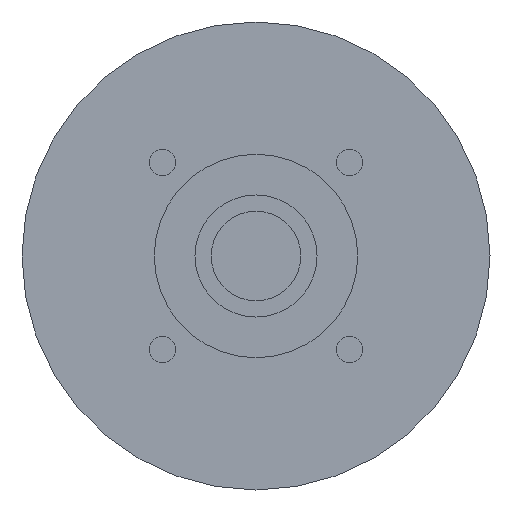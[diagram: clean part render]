
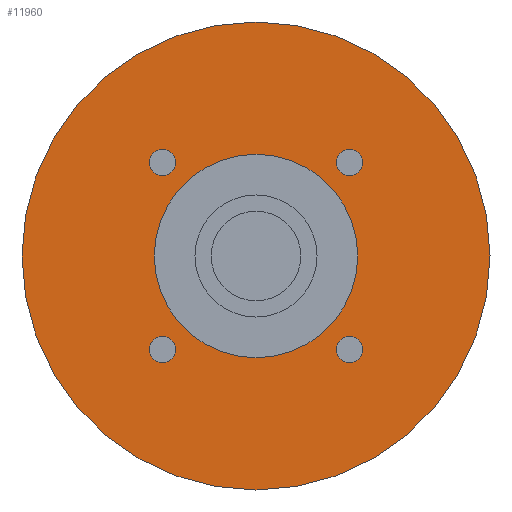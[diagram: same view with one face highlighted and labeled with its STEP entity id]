
A CAD part, left-side view. The second image highlights one B-rep face of the part: STEP entity #11960.
In plain terms, the highlighted planar face has unit normal (-1, 0, 0) as drawn and (0, 0, -1) by its records, which use the part's own axes.
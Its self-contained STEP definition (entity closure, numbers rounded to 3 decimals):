
#9030=CARTESIAN_POINT('',(19.731,-22.981,-66.401));
#9040=VERTEX_POINT('',#9030);
#9070=CARTESIAN_POINT('',(22.981,-22.981,-66.401));
#9080=DIRECTION('',(0.,0.,-1.));
#9090=DIRECTION('',(1.,0.,0.));
#9100=AXIS2_PLACEMENT_3D('',#9070,#9080,#9090);
#9110=CIRCLE('',#9100,3.25);
#9120=CARTESIAN_POINT('',(26.231,-22.981,-66.401));
#9130=VERTEX_POINT('',#9120);
#9140=EDGE_CURVE('',#9130,#9040,#9110,.T.);
#10890=CARTESIAN_POINT('',(57.5,0.,-66.401));
#10900=VERTEX_POINT('',#10890);
#10930=CARTESIAN_POINT('',(0.,0.,
-66.401));
#10940=DIRECTION('',(0.,0.,-1.));
#10950=DIRECTION('',(0.,-1.,0.));
#10960=AXIS2_PLACEMENT_3D('',#10930,#10940,#10950);
#10970=CIRCLE('',#10960,57.5);
#10980=CARTESIAN_POINT('',(0.,-57.5,-66.401));
#10990=VERTEX_POINT('',#10980);
#11000=EDGE_CURVE('',#10900,#10990,#10970,.T.);
#11020=CARTESIAN_POINT('',(-57.5,0.,-66.401));
#11030=VERTEX_POINT('',#11020);
#11040=EDGE_CURVE('',#10990,#11030,#10970,.T.);
#11160=CARTESIAN_POINT('',(0.,0.,
-66.401));
#11170=DIRECTION('',(0.,0.,-1.));
#11180=DIRECTION('',(1.,0.,0.));
#11190=AXIS2_PLACEMENT_3D('',#11160,#11170,#11180);
#11200=PLANE('',#11190);
#11210=CARTESIAN_POINT('',(22.981,22.981,-66.401));
#11220=DIRECTION('',(0.,0.,-1.));
#11230=DIRECTION('',(0.,1.,0.));
#11240=AXIS2_PLACEMENT_3D('',#11210,#11220,#11230);
#11250=CIRCLE('',#11240,3.25);
#11260=CARTESIAN_POINT('',(22.981,26.231,-66.401));
#11270=VERTEX_POINT('',#11260);
#11280=CARTESIAN_POINT('',(22.981,19.731,-66.401));
#11290=VERTEX_POINT('',#11280);
#11300=EDGE_CURVE('',#11270,#11290,#11250,.T.);
#11310=ORIENTED_EDGE('',*,*,#11300,.F.);
#11320=EDGE_CURVE('',#11290,#11270,#11250,.T.);
#11330=ORIENTED_EDGE('',*,*,#11320,.F.);
#11340=EDGE_LOOP('',(#11330,#11310));
#11350=FACE_BOUND('',#11340,.T.);
#11360=CARTESIAN_POINT('',(-22.981,22.981,-66.401));
#11370=DIRECTION('',(0.,0.,-1.));
#11380=DIRECTION('',(-1.,0.,0.));
#11390=AXIS2_PLACEMENT_3D('',#11360,#11370,#11380);
#11400=CIRCLE('',#11390,3.25);
#11410=CARTESIAN_POINT('',(-26.231,22.981,-66.401));
#11420=VERTEX_POINT('',#11410);
#11430=CARTESIAN_POINT('',(-19.731,22.981,-66.401));
#11440=VERTEX_POINT('',#11430);
#11450=EDGE_CURVE('',#11420,#11440,#11400,.T.);
#11460=ORIENTED_EDGE('',*,*,#11450,.F.);
#11470=EDGE_CURVE('',#11440,#11420,#11400,.T.);
#11480=ORIENTED_EDGE('',*,*,#11470,.F.);
#11490=EDGE_LOOP('',(#11480,#11460));
#11500=FACE_BOUND('',#11490,.T.);
#11510=CARTESIAN_POINT('',(-22.981,-22.981,-66.401))
;
#11520=DIRECTION('',(0.,0.,-1.));
#11530=DIRECTION('',(0.,-1.,0.));
#11540=AXIS2_PLACEMENT_3D('',#11510,#11520,#11530);
#11550=CIRCLE('',#11540,3.25);
#11560=CARTESIAN_POINT('',(-22.981,-26.231,-66.401))
;
#11570=VERTEX_POINT('',#11560);
#11580=CARTESIAN_POINT('',(-22.981,-19.731,-66.401))
;
#11590=VERTEX_POINT('',#11580);
#11600=EDGE_CURVE('',#11570,#11590,#11550,.T.);
#11610=ORIENTED_EDGE('',*,*,#11600,.F.);
#11620=EDGE_CURVE('',#11590,#11570,#11550,.T.);
#11630=ORIENTED_EDGE('',*,*,#11620,.F.);
#11640=EDGE_LOOP('',(#11630,#11610));
#11650=FACE_BOUND('',#11640,.T.);
#11660=CARTESIAN_POINT('',(0.,0.,
-66.401));
#11670=DIRECTION('',(0.,0.,1.));
#11680=DIRECTION('',(0.,1.,0.));
#11690=AXIS2_PLACEMENT_3D('',#11660,#11670,#11680);
#11700=CIRCLE('',#11690,25.);
#11710=CARTESIAN_POINT('',(-25.,0.,-66.401));
#11720=VERTEX_POINT('',#11710);
#11730=CARTESIAN_POINT('',(25.,0.,-66.401));
#11740=VERTEX_POINT('',#11730);
#11750=EDGE_CURVE('',#11720,#11740,#11700,.T.);
#11760=ORIENTED_EDGE('',*,*,#11750,.T.);
#11770=CARTESIAN_POINT('',(0.,25.,-66.401));
#11780=VERTEX_POINT('',#11770);
#11790=EDGE_CURVE('',#11780,#11720,#11700,.T.);
#11800=ORIENTED_EDGE('',*,*,#11790,.T.);
#11810=EDGE_CURVE('',#11740,#11780,#11700,.T.);
#11820=ORIENTED_EDGE('',*,*,#11810,.T.);
#11830=EDGE_LOOP('',(#11820,#11800,#11760));
#11840=FACE_BOUND('',#11830,.T.);
#11850=ORIENTED_EDGE('',*,*,#9140,.F.);
#11860=EDGE_CURVE('',#9040,#9130,#9110,.T.);
#11870=ORIENTED_EDGE('',*,*,#11860,.F.);
#11880=EDGE_LOOP('',(#11870,#11850));
#11890=FACE_BOUND('',#11880,.T.);
#11900=EDGE_CURVE('',#11030,#10900,#10970,.T.);
#11910=ORIENTED_EDGE('',*,*,#11900,.T.);
#11920=ORIENTED_EDGE('',*,*,#11040,.T.);
#11930=ORIENTED_EDGE('',*,*,#11000,.T.);
#11940=EDGE_LOOP('',(#11930,#11920,#11910));
#11950=FACE_OUTER_BOUND('',#11940,.T.);
#11960=ADVANCED_FACE('',(#11350,#11500,#11650,#11840,#11890,#11950),
#11200,.T.);
